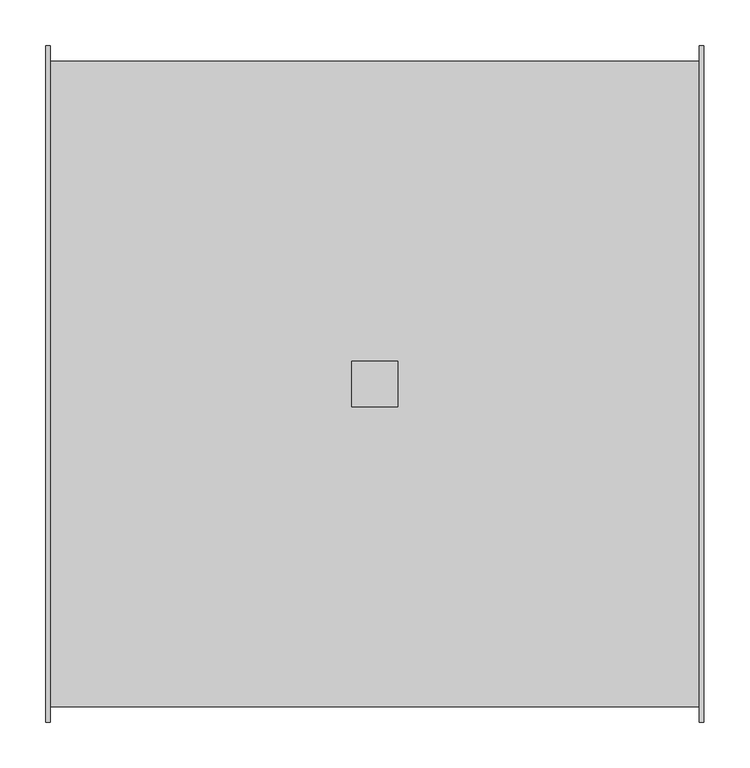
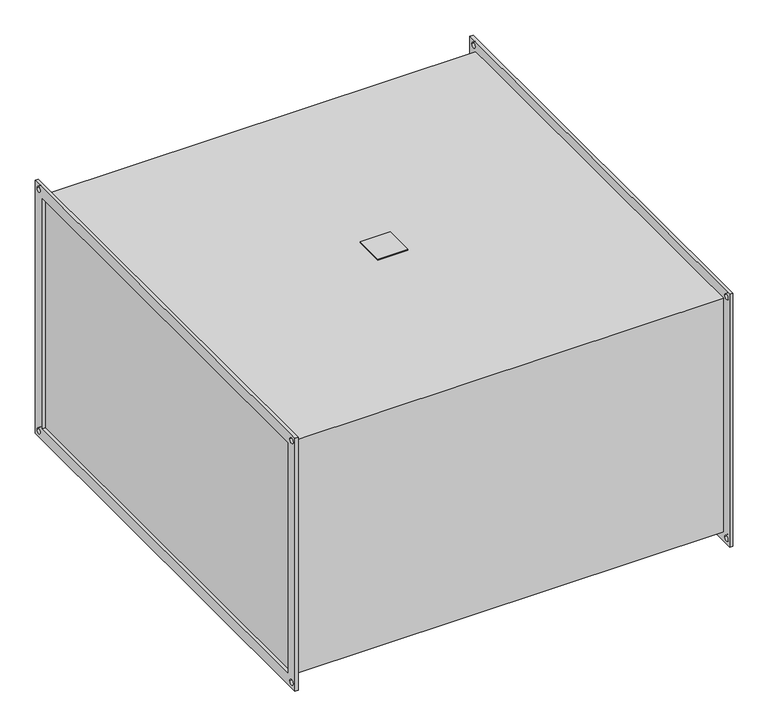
"""IFC4 building model written with IfcOpenShell, lengths in millimetres: damper geometry, KORF_Фильтр_Карманный_FKR : FKR 70-40  EU5."""

from ifc_helpers import new_model, si_unit, point, frame, frame_2d, origin, place, context, project, spatial, polyline, circle_curve, trimmed, segment, composite_curve, outline, extrude, source, transform, mapped, element, save


def damper_729cf8fa(model_context):
    return source(origin(), model_context, "Body", "SweptSolid", [
        extrude(outline(polyline([(385.0, 25.0), (385.0, -25.0), (335.0, -25.0), (335.0, 25.0), (385.0, 25.0)])), frame((0.0, 0.0, 203.0), z_axis=(0.0, 0.0, 1.0), x_axis=(1.0, 0.0, 0.0)), (0.0, 0.0, 1.0), 2.0),
        extrude(outline(polyline([(-370.0, 220.0), (370.0, 220.0), (370.0, -220.0), (-370.0, -220.0), (-370.0, 220.0)]), holes=[polyline([(-350.0, 200.0), (-350.0, -200.0), (350.0, -200.0), (350.0, 200.0), (-350.0, 200.0)]), composite_curve([segment(trimmed(circle_curve(frame_2d((360.0, 210.0)), 4.5), [point((355.5, 210.0))], [point((364.5, 210.0))], True, "CARTESIAN"), True, "CONTINUOUS"), segment(trimmed(circle_curve(frame_2d((360.0, 210.0)), 4.5), [point((364.5, 210.0))], [point((355.5, 210.0))], True, "CARTESIAN"), True, "CONTINUOUS")], self_intersect=False), composite_curve([segment(trimmed(circle_curve(frame_2d((-360.0, 210.0)), 4.5), [point((-364.5, 210.0))], [point((-355.5, 210.0))], True, "CARTESIAN"), True, "CONTINUOUS"), segment(trimmed(circle_curve(frame_2d((-360.0, 210.0)), 4.5), [point((-355.5, 210.0))], [point((-364.5, 210.0))], True, "CARTESIAN"), True, "CONTINUOUS")], self_intersect=False), composite_curve([segment(trimmed(circle_curve(frame_2d((-360.0, -210.0)), 4.5), [point((-364.5, -210.0))], [point((-355.5, -210.0))], True, "CARTESIAN"), True, "CONTINUOUS"), segment(trimmed(circle_curve(frame_2d((-360.0, -210.0)), 4.5), [point((-355.5, -210.0))], [point((-364.5, -210.0))], True, "CARTESIAN"), True, "CONTINUOUS")], self_intersect=False), composite_curve([segment(trimmed(circle_curve(frame_2d((360.0, -210.0)), 4.5), [point((355.5, -210.0))], [point((364.5, -210.0))], True, "CARTESIAN"), True, "CONTINUOUS"), segment(trimmed(circle_curve(frame_2d((360.0, -210.0)), 4.5), [point((364.5, -210.0))], [point((355.5, -210.0))], True, "CARTESIAN"), True, "CONTINUOUS")], self_intersect=False)]), frame((715.0, 0.0, 0.0), z_axis=(1.0, 0.0, 0.0), x_axis=(0.0, 1.0, 0.0)), (0.0, 0.0, 1.0), 5.0),
        extrude(outline(polyline([(-370.0, 220.0), (370.0, 220.0), (370.0, -220.0), (-370.0, -220.0), (-370.0, 220.0)]), holes=[polyline([(-350.0, 200.0), (-350.0, -200.0), (350.0, -200.0), (350.0, 200.0), (-350.0, 200.0)]), composite_curve([segment(trimmed(circle_curve(frame_2d((360.0, 210.0)), 4.5), [point((355.5, 210.0))], [point((364.5, 210.0))], True, "CARTESIAN"), True, "CONTINUOUS"), segment(trimmed(circle_curve(frame_2d((360.0, 210.0)), 4.5), [point((364.5, 210.0))], [point((355.5, 210.0))], True, "CARTESIAN"), True, "CONTINUOUS")], self_intersect=False), composite_curve([segment(trimmed(circle_curve(frame_2d((-360.0, 210.0)), 4.5), [point((-364.5, 210.0))], [point((-355.5, 210.0))], True, "CARTESIAN"), True, "CONTINUOUS"), segment(trimmed(circle_curve(frame_2d((-360.0, 210.0)), 4.5), [point((-355.5, 210.0))], [point((-364.5, 210.0))], True, "CARTESIAN"), True, "CONTINUOUS")], self_intersect=False), composite_curve([segment(trimmed(circle_curve(frame_2d((-360.0, -210.0)), 4.5), [point((-364.5, -210.0))], [point((-355.5, -210.0))], True, "CARTESIAN"), True, "CONTINUOUS"), segment(trimmed(circle_curve(frame_2d((-360.0, -210.0)), 4.5), [point((-355.5, -210.0))], [point((-364.5, -210.0))], True, "CARTESIAN"), True, "CONTINUOUS")], self_intersect=False), composite_curve([segment(trimmed(circle_curve(frame_2d((360.0, -210.0)), 4.5), [point((355.5, -210.0))], [point((364.5, -210.0))], True, "CARTESIAN"), True, "CONTINUOUS"), segment(trimmed(circle_curve(frame_2d((360.0, -210.0)), 4.5), [point((364.5, -210.0))], [point((355.5, -210.0))], True, "CARTESIAN"), True, "CONTINUOUS")], self_intersect=False)]), frame((0.0, 0.0, 0.0), z_axis=(1.0, 0.0, 0.0), x_axis=(0.0, 1.0, 0.0)), (0.0, 0.0, 1.0), 5.0),
        extrude(outline(polyline([(715.0, 353.0), (715.0, -353.0), (5.0, -353.0), (5.0, 353.0), (715.0, 353.0)])), frame((0.0, 0.0, -203.0), z_axis=(0.0, 0.0, 1.0), x_axis=(1.0, 0.0, 0.0)), (0.0, 0.0, 1.0), 406.0),
    ])


if __name__ == "__main__":
    model = new_model("IFC4")
    model_context = context("Model", 3, world=origin())
    ifc_project = project(units=[si_unit("LENGTHUNIT", "METRE", prefix="MILLI")], contexts=[model_context])
    site = spatial("IfcSite", under=ifc_project)
    building = spatial("IfcBuilding", under=site)
    placement = place(None, origin())
    damper_shape = damper_729cf8fa(model_context)
    element("IfcDamper", 1, ObjectType="KORF_Фильтр_Карманный_FKR : FKR 70-40  EU5", at=placement, inside=building, context=model_context, shape_type="MappedRepresentation", body=[
        mapped(damper_shape, transform((0.0, 0.0, 0.0), x_axis=(1.0, 0.0, 0.0), y_axis=(0.0, 1.0, 0.0), z_axis=(0.0, 0.0, 1.0))),
    ])
    save(model, "model.ifc")
